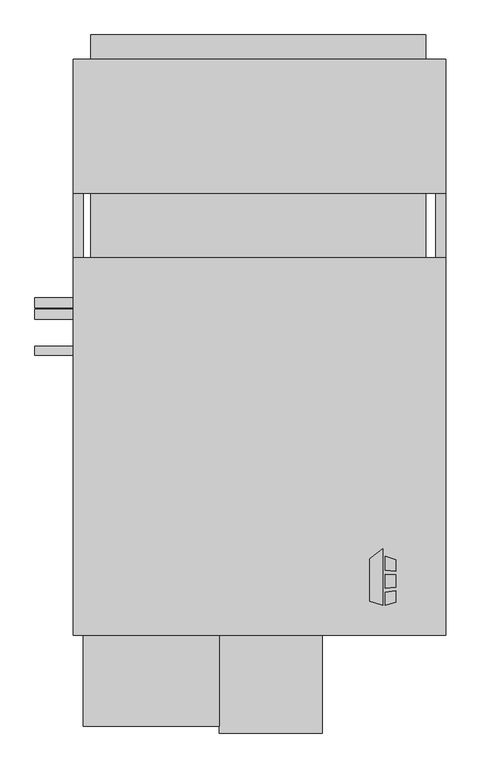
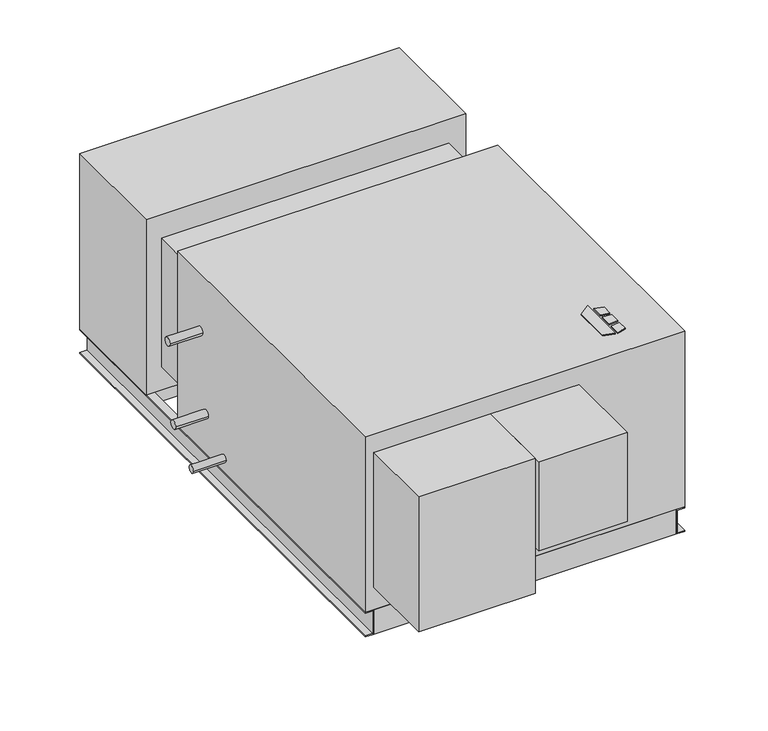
"""IFC4 building model written with IfcOpenShell, lengths in millimetres: proxy geometry, Horizontal_Direct_Drive_Blower_Coil_Unit_-_HDY_-_IEC_-_2-Pipe_Cool-EHeat_NFilterR_W-MixingBox_LH_2022 : Size 10 - 460v/60Hz/3Ph - 8 Row 9.9kW LH."""

from ifc_helpers import new_model, si_unit, point, frame, frame_2d, origin, origin_with_axes, place, context, project, spatial, polyline, circle_curve, trimmed, segment, composite_curve, outline, extrude, source, transform, mapped, element, save


def mechanical_equipment_ec97a2d1(model_context):
    return source(origin(), model_context, "Body", "SweptSolid", [
        extrude(outline(polyline([(-319.3980239, -267.6578476), (-286.8397272, -242.2205184), (-286.8397272, -384.175), (-319.3980239, -373.9554201), (-319.3980239, -267.6578476)])), origin_with_axes(), (0.0, 0.0, 1.0), 3.175),
        extrude(outline(polyline([(-280.0813942, -295.529852), (-280.0813942, -261.0499379), (-254.0, -269.2365115), (-254.0, -298.7322446), (-280.0813942, -295.529852)])), origin_with_axes(), (0.0, 0.0, 1.0), 3.175),
        extrude(outline(polyline([(-254.0, -377.1865115), (-280.0813942, -384.175), (-280.0813942, -350.9536996), (-254.0, -347.4118564), (-254.0, -377.1865115)])), origin_with_axes(), (0.0, 0.0, 1.0), 3.175),
        extrude(outline(polyline([(-254.0, -307.8138277), (-254.0, -339.063983), (-280.0813942, -341.805248), (-280.0813942, -305.9475378), (-254.0, -307.8138277)])), origin_with_axes(), (0.0, 0.0, 1.0), 3.175),
        extrude(outline(polyline([(-177.8, 890.905), (-177.8, 687.705), (-1022.35, 687.705), (-1022.35, 890.905), (-177.8, 890.905)])), frame((0.0, 0.0, -607.06), z_axis=(0.0, 0.0, 1.0), x_axis=(1.0, 0.0, 0.0)), (0.0, 0.0, 1.0), 60.96),
        extrude(outline(polyline([(-1022.35, 1053.465), (-177.8, 1053.465), (-177.8, 992.505), (-1022.35, 992.505), (-1022.35, 1053.465)])), frame((0.0, 0.0, -279.4), z_axis=(0.0, 0.0, 1.0), x_axis=(1.0, 0.0, 0.0)), (0.0, 0.0, 1.0), 203.2),
        extrude(outline(polyline([(-127.0, 992.505), (-127.0, 654.05), (-1066.8, 654.05), (-1066.8, 992.505), (-127.0, 992.505)])), frame((0.0, 0.0, -546.1), z_axis=(0.0, 0.0, 1.0), x_axis=(1.0, 0.0, 0.0)), (0.0, 0.0, 1.0), 546.1),
        extrude(outline(polyline([(-152.4, -434.975), (-152.4, -460.375), (-1041.4, -460.375), (-1041.4, -434.975), (-152.4, -434.975)])), frame((0.0, 0.0, -622.3), z_axis=(0.0, 0.0, 1.0), x_axis=(1.0, 0.0, 0.0)), (0.0, 0.0, 1.0), 76.2),
        extrude(outline(polyline([(-152.4, 992.505), (-152.4, 967.105), (-1041.4, 967.105), (-1041.4, 992.505), (-152.4, 992.505)])), frame((0.0, 0.0, -622.3), z_axis=(0.0, 0.0, 1.0), x_axis=(1.0, 0.0, 0.0)), (0.0, 0.0, 1.0), 76.2),
        extrude(outline(polyline([(-546.1, -1041.4), (-546.1, -1066.8), (-549.275, -1066.8), (-549.275, -1044.575), (-619.125, -1044.575), (-619.125, -1066.8), (-622.3, -1066.8), (-622.3, -1041.4), (-546.1, -1041.4)])), frame((0.0, -460.375, 0.0), z_axis=(0.0, 1.0, 0.0), x_axis=(0.0, 0.0, 1.0)), (0.0, 0.0, 1.0), 1452.88),
        extrude(outline(polyline([(-546.1, -152.4), (-622.3, -152.4), (-622.3, -127.0), (-619.125, -127.0), (-619.125, -149.225), (-549.275, -149.225), (-549.275, -127.0), (-546.1, -127.0), (-546.1, -152.4)])), frame((0.0, -460.375, 0.0), z_axis=(0.0, 1.0, 0.0), x_axis=(0.0, 0.0, 1.0)), (0.0, 0.0, 1.0), 1452.88),
        extrude(outline(composite_curve([segment(trimmed(circle_curve(frame_2d((377.825, -177.8)), 12.7), [point((365.125, -177.8))], [point((390.525, -177.8))], False, "CARTESIAN"), True, "CONTINUOUS"), segment(trimmed(circle_curve(frame_2d((377.825, -177.8)), 12.7), [point((390.525, -177.8))], [point((365.125, -177.8))], False, "CARTESIAN"), True, "CONTINUOUS")], self_intersect=False)), frame((-1163.1025559, 0.0, 0.0), z_axis=(1.0, 0.0, 0.0), x_axis=(0.0, 1.0, 0.0)), (0.0, 0.0, 1.0), 96.3025559),
        extrude(outline(composite_curve([segment(trimmed(circle_curve(frame_2d((348.9715397, -419.1)), 12.7), [point((336.2715397, -419.1))], [point((361.6715397, -419.1))], False, "CARTESIAN"), True, "CONTINUOUS"), segment(trimmed(circle_curve(frame_2d((348.9715397, -419.1)), 12.7), [point((361.6715397, -419.1))], [point((336.2715397, -419.1))], False, "CARTESIAN"), True, "CONTINUOUS")], self_intersect=False)), frame((-1163.1025559, 0.0, 0.0), z_axis=(1.0, 0.0, 0.0), x_axis=(0.0, 1.0, 0.0)), (0.0, 0.0, 1.0), 96.3025559),
        extrude(outline(composite_curve([segment(trimmed(circle_curve(frame_2d((257.175, -501.65)), 11.1125), [point((246.0625, -501.65))], [point((268.2875, -501.65))], False, "CARTESIAN"), True, "CONTINUOUS"), segment(trimmed(circle_curve(frame_2d((257.175, -501.65)), 11.1125), [point((268.2875, -501.65))], [point((246.0625, -501.65))], False, "CARTESIAN"), True, "CONTINUOUS")], self_intersect=False)), frame((-1163.1025559, 0.0, 0.0), z_axis=(1.0, 0.0, 0.0), x_axis=(0.0, 1.0, 0.0)), (0.0, 0.0, 1.0), 96.3025559),
        extrude(outline(polyline([(-127.0, 492.125), (-127.0, -460.375), (-1066.8, -460.375), (-1066.8, 492.125), (-127.0, 492.125)])), frame((0.0, 0.0, -546.1), z_axis=(0.0, 0.0, 1.0), x_axis=(1.0, 0.0, 0.0)), (0.0, 0.0, 1.0), 546.1),
        extrude(outline(polyline([(-698.5, -688.975), (-1041.4, -688.975), (-1041.4, -460.375), (-698.5, -460.375), (-698.5, -688.975)])), frame((0.0, 0.0, -476.25), z_axis=(0.0, 0.0, 1.0), x_axis=(1.0, 0.0, 0.0)), (0.0, 0.0, 1.0), 419.1),
        extrude(outline(polyline([(-1022.35, 654.05), (-177.8, 654.05), (-177.8, 492.125), (-1022.35, 492.125), (-1022.35, 654.05)])), frame((0.0, 0.0, -473.075), z_axis=(0.0, 0.0, 1.0), x_axis=(1.0, 0.0, 0.0)), (0.0, 0.0, 1.0), 400.05),
        extrude(outline(polyline([(-438.15, -706.4375), (-698.5, -706.4375), (-698.5, -460.375), (-438.15, -460.375), (-438.15, -706.4375)])), frame((0.0, 0.0, -333.375), z_axis=(0.0, 0.0, 1.0), x_axis=(1.0, 0.0, 0.0)), (0.0, 0.0, 1.0), 276.225),
    ])


if __name__ == "__main__":
    model = new_model("IFC4")
    model_context = context("Model", 3, world=origin())
    ifc_project = project(units=[si_unit("LENGTHUNIT", "METRE", prefix="MILLI")], contexts=[model_context])
    site = spatial("IfcSite", under=ifc_project)
    building = spatial("IfcBuilding", under=site)
    placement = place(None, origin())
    mechanical_equipment_shape = mechanical_equipment_ec97a2d1(model_context)
    element("IfcBuildingElementProxy", 1, Name="Horizontal_Direct_Drive_Blower_Coil_Unit_-_HDY_-_IEC_-_2-Pipe_Cool-EHeat_NFilterR_W-MixingBox_LH_2022 : Size 10 - 460v/60Hz/3Ph - 8 Row 9.9kW LH", ObjectType="Horizontal_Direct_Drive_Blower_Coil_Unit_-_HDY_-_IEC_-_2-Pipe_Cool-EHeat_NFilterR_W-MixingBox_LH_2022 : Size 10 - 460v/60Hz/3Ph - 8 Row 9.9kW LH", at=placement, inside=building, context=model_context, shape_type="MappedRepresentation", body=[
        mapped(mechanical_equipment_shape, transform((0.0, 0.0, 0.0), x_axis=(1.0, 0.0, 0.0), y_axis=(0.0, 1.0, 0.0), z_axis=(0.0, 0.0, 1.0))),
    ])
    save(model, "model.ifc")
